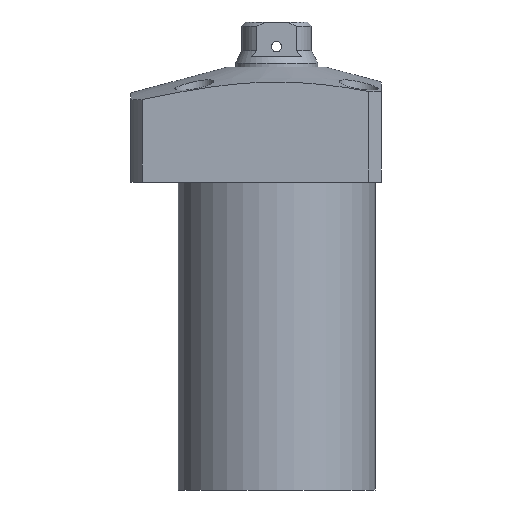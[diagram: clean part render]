
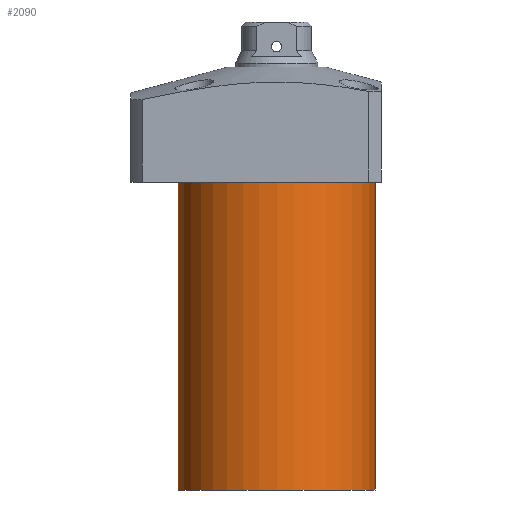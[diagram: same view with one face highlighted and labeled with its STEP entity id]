
A CAD part, front view. The second image highlights one B-rep face of the part: STEP entity #2090.
In plain terms, the highlighted cylindrical face has radius 24 mm (diameter 48 mm), a partial arc.
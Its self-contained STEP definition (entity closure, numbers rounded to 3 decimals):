
#113 = FACE_OUTER_BOUND ( 'NONE', #1717, .T. ) ;
#174 = CARTESIAN_POINT ( 'NONE',  ( 24., 0., -89. ) ) ;
#227 = AXIS2_PLACEMENT_3D ( 'NONE', #518, #1960, #1981 ) ;
#282 = CIRCLE ( 'NONE', #227, 24. ) ;
#293 = CARTESIAN_POINT ( 'NONE',  ( -24., 0., -14. ) ) ;
#439 = CARTESIAN_POINT ( 'NONE',  ( 0., 0., -89. ) ) ;
#518 = CARTESIAN_POINT ( 'NONE',  ( 0., 0., -14. ) ) ;
#559 = DIRECTION ( 'NONE',  ( 0., 0., 1. ) ) ;
#736 = CIRCLE ( 'NONE', #2070, 24. ) ;
#795 = CARTESIAN_POINT ( 'NONE',  ( -24., 0., -89. ) ) ;
#845 = VERTEX_POINT ( 'NONE', #174 ) ;
#867 = DIRECTION ( 'NONE',  ( 0., 0., -1. ) ) ;
#890 = DIRECTION ( 'NONE',  ( 1., 0., 0. ) ) ;
#919 = EDGE_CURVE ( 'NONE', #1936, #2446, #282, .T. ) ;
#941 = LINE ( 'NONE', #795, #1734 ) ;
#956 = ORIENTED_EDGE ( 'NONE', *, *, #1847, .F. ) ;
#985 = CARTESIAN_POINT ( 'NONE',  ( 24., 0., -89. ) ) ;
#1042 = ORIENTED_EDGE ( 'NONE', *, *, #919, .T. ) ;
#1152 = VECTOR ( 'NONE', #559, 1000. ) ;
#1400 = ORIENTED_EDGE ( 'NONE', *, *, #2539, .T. ) ;
#1427 = DIRECTION ( 'NONE',  ( 0., 0., 1. ) ) ;
#1646 = VERTEX_POINT ( 'NONE', #2382 ) ;
#1717 = EDGE_LOOP ( 'NONE', ( #2415, #956, #1400, #1042 ) ) ;
#1734 = VECTOR ( 'NONE', #1427, 1000. ) ;
#1809 = AXIS2_PLACEMENT_3D ( 'NONE', #1942, #1930, #890 ) ;
#1847 = EDGE_CURVE ( 'NONE', #845, #1646, #736, .T. ) ;
#1930 = DIRECTION ( 'NONE',  ( 0., 0., 1. ) ) ;
#1936 = VERTEX_POINT ( 'NONE', #2136 ) ;
#1942 = CARTESIAN_POINT ( 'NONE',  ( 0., 0., -89. ) ) ;
#1960 = DIRECTION ( 'NONE',  ( 0., 0., -1. ) ) ;
#1981 = DIRECTION ( 'NONE',  ( 1., 0., 0. ) ) ;
#2070 = AXIS2_PLACEMENT_3D ( 'NONE', #439, #867, #2499 ) ;
#2090 = ADVANCED_FACE ( 'NONE', ( #113 ), #2093, .T. ) ;
#2093 = CYLINDRICAL_SURFACE ( 'NONE', #1809, 24. ) ;
#2136 = CARTESIAN_POINT ( 'NONE',  ( 24., 0., -14. ) ) ;
#2337 = LINE ( 'NONE', #985, #1152 ) ;
#2382 = CARTESIAN_POINT ( 'NONE',  ( -24., 0., -89. ) ) ;
#2415 = ORIENTED_EDGE ( 'NONE', *, *, #2565, .F. ) ;
#2446 = VERTEX_POINT ( 'NONE', #293 ) ;
#2499 = DIRECTION ( 'NONE',  ( -1., 0., 0. ) ) ;
#2539 = EDGE_CURVE ( 'NONE', #845, #1936, #2337, .T. ) ;
#2565 = EDGE_CURVE ( 'NONE', #1646, #2446, #941, .T. ) ;
